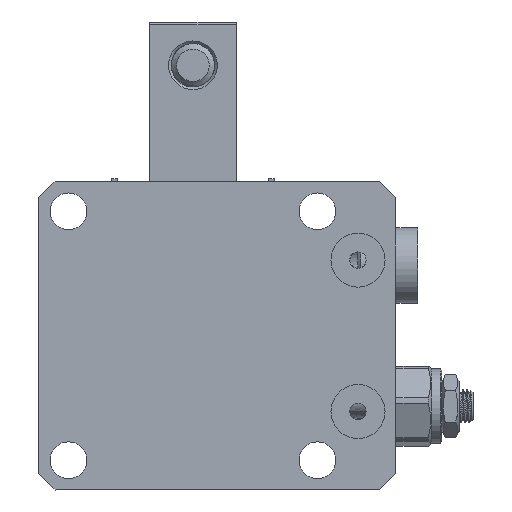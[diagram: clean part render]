
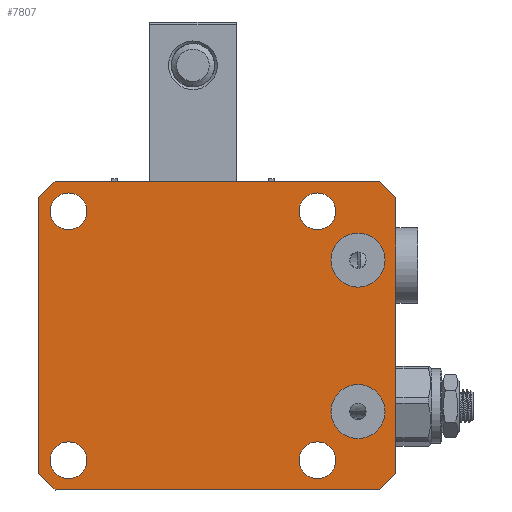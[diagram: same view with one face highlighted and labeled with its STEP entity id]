
A CAD part, front view. The second image highlights one B-rep face of the part: STEP entity #7807.
In plain terms, the highlighted planar face has unit normal (0, -1, 0).
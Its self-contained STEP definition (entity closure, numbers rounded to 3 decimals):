
#291=PLANE('',#8554);
#451=FACE_BOUND('',#1418,.T.);
#452=FACE_BOUND('',#1419,.T.);
#453=FACE_BOUND('',#1420,.T.);
#454=FACE_BOUND('',#1421,.T.);
#455=FACE_BOUND('',#1422,.T.);
#456=FACE_BOUND('',#1423,.T.);
#951=FACE_OUTER_BOUND('',#1417,.T.);
#1417=EDGE_LOOP('',(#5516,#5517,#5518,#5519,#5520,#5521,#5522,#5523));
#1418=EDGE_LOOP('',(#5524));
#1419=EDGE_LOOP('',(#5525));
#1420=EDGE_LOOP('',(#5526));
#1421=EDGE_LOOP('',(#5527));
#1422=EDGE_LOOP('',(#5528));
#1423=EDGE_LOOP('',(#5529));
#1931=LINE('',#11735,#2456);
#1943=LINE('',#11759,#2468);
#1980=LINE('',#11840,#2505);
#1981=LINE('',#11843,#2506);
#1982=LINE('',#11845,#2507);
#1983=LINE('',#11847,#2508);
#1984=LINE('',#11849,#2509);
#1985=LINE('',#11850,#2510);
#2456=VECTOR('',#9449,1000.);
#2468=VECTOR('',#9463,1000.);
#2505=VECTOR('',#9534,1000.);
#2506=VECTOR('',#9537,1000.);
#2507=VECTOR('',#9538,1000.);
#2508=VECTOR('',#9539,1000.);
#2509=VECTOR('',#9540,1000.);
#2510=VECTOR('',#9541,1000.);
#2967=CIRCLE('',#8488,5.);
#2969=CIRCLE('',#8491,5.);
#2970=CIRCLE('',#8493,3.4);
#2971=CIRCLE('',#8495,3.4);
#2972=CIRCLE('',#8497,3.4);
#2975=CIRCLE('',#8501,3.4);
#3334=VERTEX_POINT('',#11476);
#3336=VERTEX_POINT('',#11482);
#3337=VERTEX_POINT('',#11486);
#3338=VERTEX_POINT('',#11490);
#3339=VERTEX_POINT('',#11494);
#3342=VERTEX_POINT('',#11502);
#3375=VERTEX_POINT('',#11732);
#3376=VERTEX_POINT('',#11734);
#3387=VERTEX_POINT('',#11758);
#3414=VERTEX_POINT('',#11838);
#3415=VERTEX_POINT('',#11842);
#3416=VERTEX_POINT('',#11844);
#3417=VERTEX_POINT('',#11846);
#3418=VERTEX_POINT('',#11848);
#4127=EDGE_CURVE('',#3334,#3334,#2967,.T.);
#4130=EDGE_CURVE('',#3336,#3336,#2969,.T.);
#4131=EDGE_CURVE('',#3337,#3337,#2970,.T.);
#4133=EDGE_CURVE('',#3338,#3338,#2971,.T.);
#4135=EDGE_CURVE('',#3339,#3339,#2972,.T.);
#4139=EDGE_CURVE('',#3342,#3342,#2975,.T.);
#4186=EDGE_CURVE('',#3375,#3376,#1931,.T.);
#4198=EDGE_CURVE('',#3375,#3387,#1943,.T.);
#4240=EDGE_CURVE('',#3376,#3414,#1980,.T.);
#4241=EDGE_CURVE('',#3387,#3415,#1981,.T.);
#4242=EDGE_CURVE('',#3415,#3416,#1982,.T.);
#4243=EDGE_CURVE('',#3416,#3417,#1983,.T.);
#4244=EDGE_CURVE('',#3417,#3418,#1984,.T.);
#4245=EDGE_CURVE('',#3418,#3414,#1985,.T.);
#5516=ORIENTED_EDGE('',*,*,#4241,.T.);
#5517=ORIENTED_EDGE('',*,*,#4242,.T.);
#5518=ORIENTED_EDGE('',*,*,#4243,.T.);
#5519=ORIENTED_EDGE('',*,*,#4244,.T.);
#5520=ORIENTED_EDGE('',*,*,#4245,.T.);
#5521=ORIENTED_EDGE('',*,*,#4240,.F.);
#5522=ORIENTED_EDGE('',*,*,#4186,.F.);
#5523=ORIENTED_EDGE('',*,*,#4198,.T.);
#5524=ORIENTED_EDGE('',*,*,#4127,.T.);
#5525=ORIENTED_EDGE('',*,*,#4130,.T.);
#5526=ORIENTED_EDGE('',*,*,#4131,.T.);
#5527=ORIENTED_EDGE('',*,*,#4133,.T.);
#5528=ORIENTED_EDGE('',*,*,#4135,.T.);
#5529=ORIENTED_EDGE('',*,*,#4139,.T.);
#7807=ADVANCED_FACE('',(#951,#451,#452,#453,#454,#455,#456),#291,.T.);
#8488=AXIS2_PLACEMENT_3D('',#11478,#9332,#9333);
#8491=AXIS2_PLACEMENT_3D('',#11484,#9339,#9340);
#8493=AXIS2_PLACEMENT_3D('',#11487,#9343,#9344);
#8495=AXIS2_PLACEMENT_3D('',#11491,#9348,#9349);
#8497=AXIS2_PLACEMENT_3D('',#11495,#9353,#9354);
#8501=AXIS2_PLACEMENT_3D('',#11503,#9362,#9363);
#8554=AXIS2_PLACEMENT_3D('',#11841,#9535,#9536);
#9332=DIRECTION('center_axis',(0.,1.,0.));
#9333=DIRECTION('ref_axis',(0.,0.,-1.));
#9339=DIRECTION('center_axis',(0.,1.,0.));
#9340=DIRECTION('ref_axis',(0.,0.,-1.));
#9343=DIRECTION('center_axis',(0.,1.,0.));
#9344=DIRECTION('ref_axis',(0.,0.,1.));
#9348=DIRECTION('center_axis',(0.,1.,0.));
#9349=DIRECTION('ref_axis',(0.,0.,1.));
#9353=DIRECTION('center_axis',(0.,1.,0.));
#9354=DIRECTION('ref_axis',(0.,0.,1.));
#9362=DIRECTION('center_axis',(0.,1.,0.));
#9363=DIRECTION('ref_axis',(0.,0.,1.));
#9449=DIRECTION('',(1.,0.,0.));
#9463=DIRECTION('',(-0.707,0.,-0.707));
#9534=DIRECTION('',(0.707,0.,-0.707));
#9535=DIRECTION('center_axis',(0.,-1.,0.));
#9536=DIRECTION('ref_axis',(0.,0.,-1.));
#9537=DIRECTION('',(0.,0.,-1.));
#9538=DIRECTION('',(0.707,0.,-0.707));
#9539=DIRECTION('',(1.,0.,0.));
#9540=DIRECTION('',(0.707,0.,0.707));
#9541=DIRECTION('',(0.,0.,1.));
#11476=CARTESIAN_POINT('',(-404.549,141.613,-9.));
#11478=CARTESIAN_POINT('Origin',(-404.549,141.613,-14.));
#11482=CARTESIAN_POINT('',(-404.549,141.613,19.));
#11484=CARTESIAN_POINT('Origin',(-404.549,141.613,14.));
#11486=CARTESIAN_POINT('',(-458.049,141.613,19.6));
#11487=CARTESIAN_POINT('Origin',(-458.049,141.613,23.));
#11490=CARTESIAN_POINT('',(-412.049,141.613,19.6));
#11491=CARTESIAN_POINT('Origin',(-412.049,141.613,23.));
#11494=CARTESIAN_POINT('',(-412.049,141.613,-26.4));
#11495=CARTESIAN_POINT('Origin',(-412.049,141.613,-23.));
#11502=CARTESIAN_POINT('',(-458.049,141.613,-26.4));
#11503=CARTESIAN_POINT('Origin',(-458.049,141.613,-23.));
#11732=CARTESIAN_POINT('',(-460.549,141.613,28.5));
#11734=CARTESIAN_POINT('',(-400.549,141.613,28.5));
#11735=CARTESIAN_POINT('',(-460.549,141.613,28.5));
#11758=CARTESIAN_POINT('',(-463.549,141.613,25.5));
#11759=CARTESIAN_POINT('',(-460.549,141.613,28.5));
#11838=CARTESIAN_POINT('',(-397.549,141.613,25.5));
#11840=CARTESIAN_POINT('',(-400.549,141.613,28.5));
#11841=CARTESIAN_POINT('Origin',(-463.549,141.613,-28.5));
#11842=CARTESIAN_POINT('',(-463.549,141.613,-25.5));
#11843=CARTESIAN_POINT('',(-463.549,141.613,-28.5));
#11844=CARTESIAN_POINT('',(-460.549,141.613,-28.5));
#11845=CARTESIAN_POINT('',(-463.549,141.613,-25.5));
#11846=CARTESIAN_POINT('',(-400.549,141.613,-28.5));
#11847=CARTESIAN_POINT('',(-463.549,141.613,-28.5));
#11848=CARTESIAN_POINT('',(-397.549,141.613,-25.5));
#11849=CARTESIAN_POINT('',(-400.549,141.613,-28.5));
#11850=CARTESIAN_POINT('',(-397.549,141.613,-28.5));
